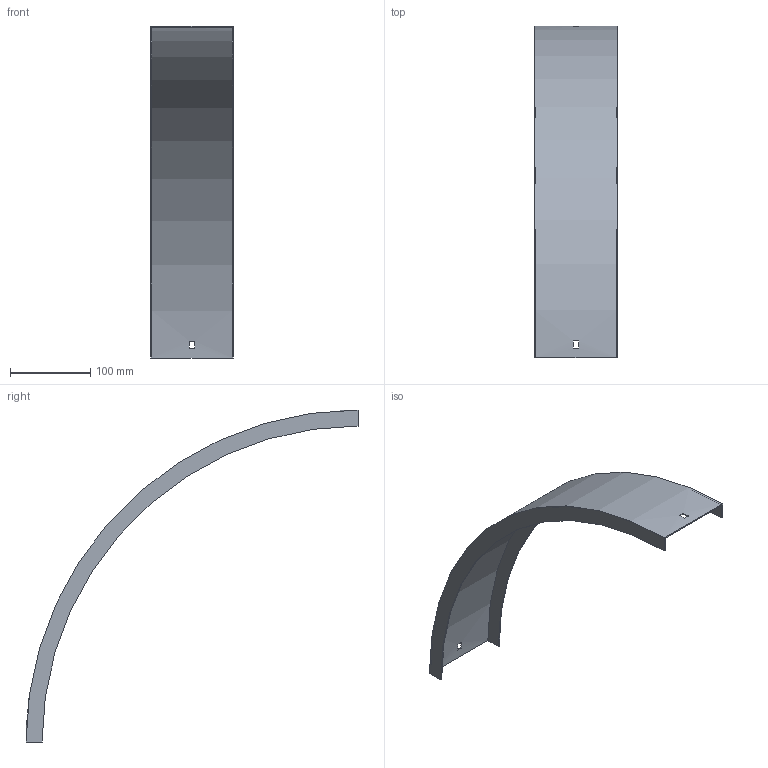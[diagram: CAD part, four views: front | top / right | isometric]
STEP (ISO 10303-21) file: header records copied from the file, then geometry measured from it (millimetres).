
FILE_DESCRIPTION (( 'STEP AP214' ), '1' );
FILE_NAME ('B2_33N3J100.step', '2025-02-21T10:47:27', ( '' ), ( '' ), 'SwSTEP 2.0', 'SolidWorks 2023', '' );
FILE_SCHEMA (( 'AUTOMOTIVE_DESIGN' ));
Length unit declared in the file: millimetre
Products named in the file (1): B2_33N3J100
Bounding box: 103 x 414 x 414 mm (x, y, z)
Volume: 135270.2 mm3; surface area: 182733.6 mm2
Topology: 1 solids, 1 shells, 18 faces, 48 edges, 32 vertices
Faces by surface type: plane 14, cylinder 4
Entity records: 599 total; most frequent: DIRECTION 102, CARTESIAN_POINT 99, ORIENTED_EDGE 96, EDGE_CURVE 48, AXIS2_PLACEMENT_3D 35, VERTEX_POINT 32, VECTOR 32, LINE 32
